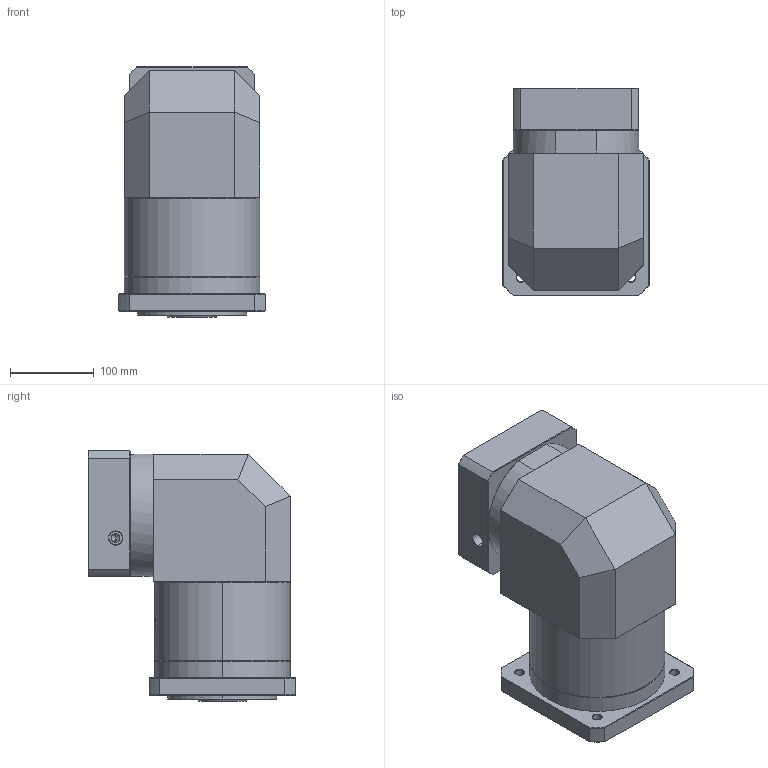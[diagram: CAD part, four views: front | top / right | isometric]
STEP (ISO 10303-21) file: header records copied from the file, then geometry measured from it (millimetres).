
FILE_DESCRIPTION (( 'STEP AP214' ), '1' );
FILE_NAME ('ZFR160A-K35-L2-P2-32-130-165-M10.step', '2023-09-03T09:02:10', ( '' ), ( '' ), 'SwSTEP 2.0', 'SolidWorks 2016', '' );
FILE_SCHEMA (( 'AUTOMOTIVE_DESIGN' ));
Length unit declared in the file: millimetre
Products named in the file (1): ZFR160A-K35-L2-P2-32-130-165-M10
Bounding box: 175 x 247.5 x 298.7 mm (x, y, z)
Volume: 7289277.9 mm3; surface area: 454944.9 mm2
Topology: 6 solids, 6 shells, 2145 faces, 5677 edges, 3638 vertices
Faces by surface type: plane 1041, bspline 394, cylinder 377, cone 300, torus 33
Entity records: 120246 total; most frequent: CARTESIAN_POINT 48577, ORIENTED_EDGE 11298, DIRECTION 8223, EDGE_CURVE 5649, VERTEX_POINT 3638, LINE 3031, VECTOR 3031, AXIS2_PLACEMENT_3D 2596
